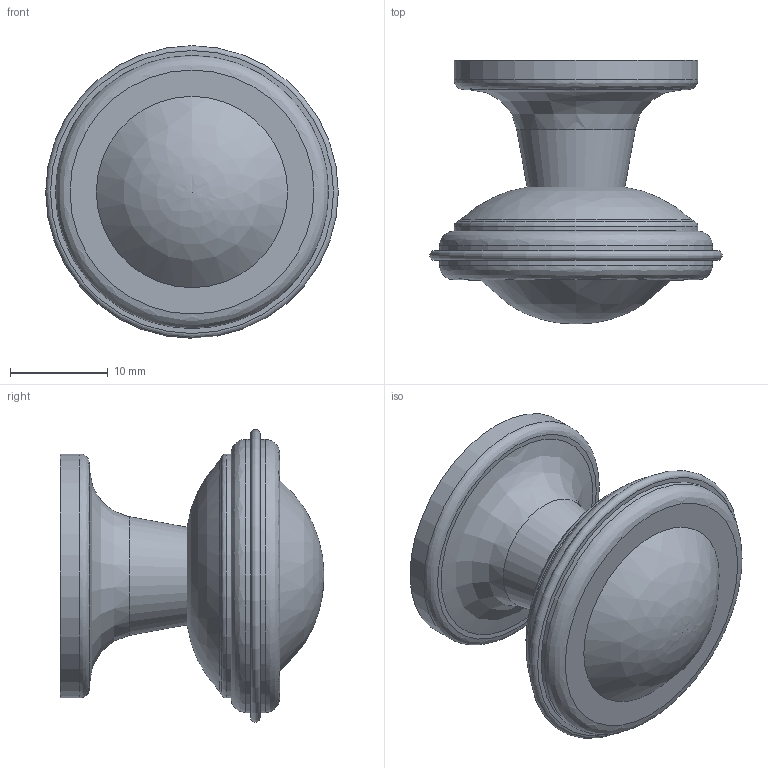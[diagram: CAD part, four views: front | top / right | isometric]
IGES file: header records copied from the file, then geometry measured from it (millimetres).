
Start section: Data from Parasolid IGES Translator 15.0.47, Copyright(c) 2006 Siemens P LM Software. All Rights Reserved.
Global section: file name: 9113659.igs; native system:  By UGS Corp.; preprocessor: XPlus GENERIC/IGES 3.0; author: Noname; organization: Noname; date: 20140122.100617; units: millimetre
Bounding box: 29.98 x 27 x 29.99 mm (x, y, z)
Surface area: 3302.2 mm2 (no closed solid volume)
Topology: 0 solids, 0 shells, 21 faces, 71 edges, 46 vertices
Faces by surface type: revolution 15, extrusion 6
